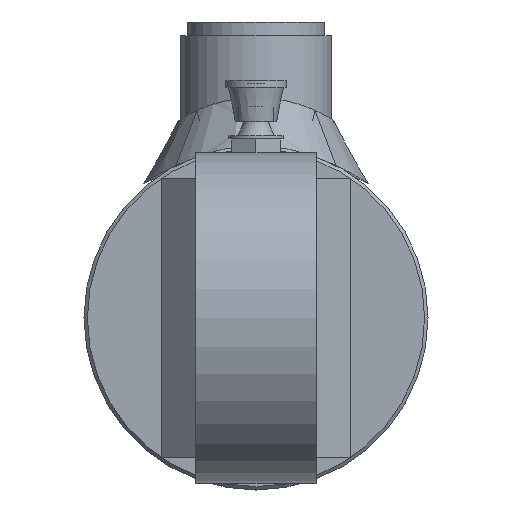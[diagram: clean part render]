
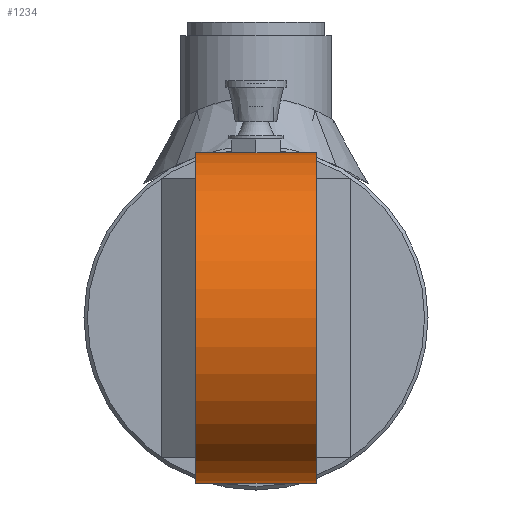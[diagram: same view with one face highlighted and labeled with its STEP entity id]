
A CAD part, left-side view. The second image highlights one B-rep face of the part: STEP entity #1234.
In plain terms, the highlighted cylindrical face has radius 24 mm (diameter 48 mm), a partial arc.
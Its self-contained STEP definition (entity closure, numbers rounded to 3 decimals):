
#1234 = ADVANCED_FACE( '', ( #2258 ), #2259, .T. );
#2258 = FACE_OUTER_BOUND( '', #4079, .T. );
#2259 = CYLINDRICAL_SURFACE( '', #4080, 24. );
#4079 = EDGE_LOOP( '', ( #7002, #7003, #7004, #7005 ) );
#4080 = AXIS2_PLACEMENT_3D( '', #7006, #7007, #7008 );
#7002 = ORIENTED_EDGE( '', *, *, #8569, .T. );
#7003 = ORIENTED_EDGE( '', *, *, #8565, .F. );
#7004 = ORIENTED_EDGE( '', *, *, #8570, .F. );
#7005 = ORIENTED_EDGE( '', *, *, #8571, .T. );
#7006 = CARTESIAN_POINT( '', ( 35., -8.75, 0. ) );
#7007 = DIRECTION( '', ( 0., -1., 0. ) );
#7008 = DIRECTION( '', ( 0., 0., 1. ) );
#8565 = EDGE_CURVE( '', #9718, #9714, #9720, .T. );
#8569 = EDGE_CURVE( '', #9725, #9714, #9726, .T. );
#8570 = EDGE_CURVE( '', #9727, #9718, #9728, .T. );
#8571 = EDGE_CURVE( '', #9727, #9725, #9729, .T. );
#9714 = VERTEX_POINT( '', #11455 );
#9718 = VERTEX_POINT( '', #11461 );
#9720 = LINE( '', #11464, #11465 );
#9725 = VERTEX_POINT( '', #11470 );
#9726 = CIRCLE( '', #11471, 24. );
#9727 = VERTEX_POINT( '', #11472 );
#9728 = CIRCLE( '', #11473, 24. );
#9729 = LINE( '', #11474, #11475 );
#11455 = CARTESIAN_POINT( '', ( 35., 8.75, 24. ) );
#11461 = CARTESIAN_POINT( '', ( 35., -8.75, 24. ) );
#11464 = CARTESIAN_POINT( '', ( 35., -8.75, 24. ) );
#11465 = VECTOR( '', #13295, 1000. );
#11470 = CARTESIAN_POINT( '', ( 35., 8.75, -24. ) );
#11471 = AXIS2_PLACEMENT_3D( '', #13299, #13300, #13301 );
#11472 = CARTESIAN_POINT( '', ( 35., -8.75, -24. ) );
#11473 = AXIS2_PLACEMENT_3D( '', #13302, #13303, #13304 );
#11474 = CARTESIAN_POINT( '', ( 35., -8.75, -24. ) );
#11475 = VECTOR( '', #13305, 1000. );
#13295 = DIRECTION( '', ( 0., 1., 0. ) );
#13299 = CARTESIAN_POINT( '', ( 35., 8.75, 0. ) );
#13300 = DIRECTION( '', ( 0., -1., 0. ) );
#13301 = DIRECTION( '', ( -1., 0., 0. ) );
#13302 = CARTESIAN_POINT( '', ( 35., -8.75, 0. ) );
#13303 = DIRECTION( '', ( 0., -1., 0. ) );
#13304 = DIRECTION( '', ( -1., 0., 0. ) );
#13305 = DIRECTION( '', ( 0., 1., 0. ) );
